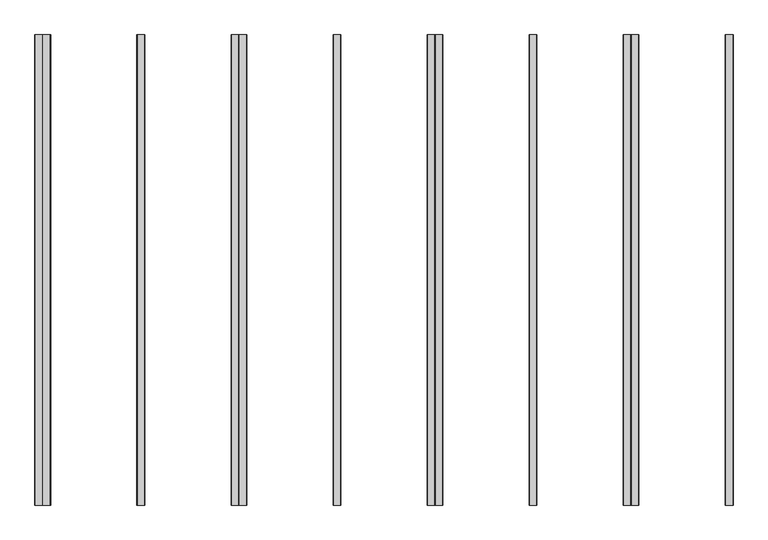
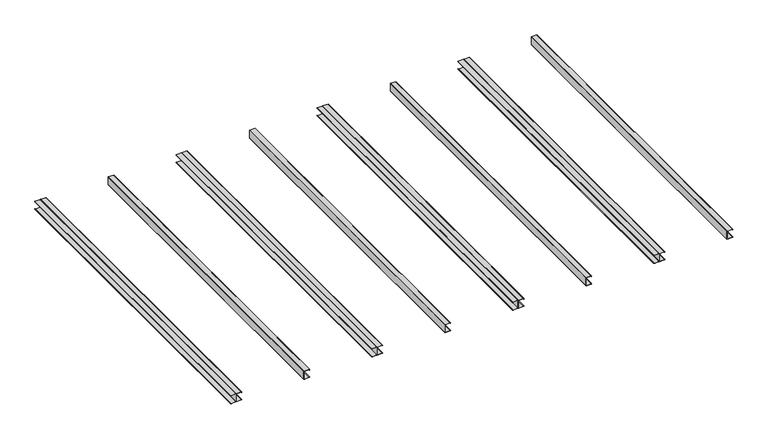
"""IFC4 building model written with IfcOpenShell, lengths in millimetres: proxy geometry, C- 2xCprofile-75 : C- 2xCprofile-75."""

import ifcopenshell
import ifcopenshell.guid

model = None  # the IFC model being written
_history = None  # IfcOwnerHistory: only IFC2X3 demands one
_inside = {}  # id of a spatial element -> (the spatial element, [elements in it])
_under = {}  # id of a project, library or spatial element -> (it, [spatial elements below it])
_declared = {}  # id of a project -> (the project, [libraries it declares])
_typed = {}  # id of a type object -> (the type object, [elements of that type])
_made_of = {}  # id of a material, layer set ... -> (it, [elements and type objects made of it])


def new_model(schema):
    """Start an empty IFC model of exactly this schema.

    Asked for "IFC4X3", IfcOpenShell would pick the latest addendum, in which some entities
    have other attributes; the version numbers below select the first issue.
    IFC2X3 requires an IfcOwnerHistory on every rooted entity: one is made here for all.
    """
    global model, _history
    if schema == "IFC4X3":
        model = ifcopenshell.file(schema_version=(4, 3, 0, 0))
    else:
        model = ifcopenshell.file(schema=schema)
    _inside.clear()
    _under.clear()
    _declared.clear()
    _typed.clear()
    _made_of.clear()
    _history = None
    if model.schema == "IFC2X3":
        org = make("IfcOrganization", Name="unknown")
        user = make(
            "IfcPersonAndOrganization",
            ThePerson=make("IfcPerson", FamilyName="unknown"),
            TheOrganization=org,
        )
        app = make(
            "IfcApplication",
            ApplicationDeveloper=org,
            Version="unknown",
            ApplicationFullName="unknown",
            ApplicationIdentifier="unknown",
        )
        _history = make(
            "IfcOwnerHistory",
            OwningUser=user,
            OwningApplication=app,
            ChangeAction="ADDED",
            CreationDate=0,
        )
    return model


def make(cls, **values):
    """One entity of the class cls with the attributes given. An attribute that is None is left unset."""
    return model.create_entity(
        cls, **{name: value for name, value in values.items() if value is not None}
    )


def rooted(cls, **values):
    """An entity with a GlobalId (a new one), such as an element, a storey or a relation."""
    return make(cls, GlobalId=ifcopenshell.guid.new(), OwnerHistory=_history, **values)


def si_unit(unit_type, name, prefix=None):
    """IfcSIUnit, for example si_unit("LENGTHUNIT", "METRE", prefix="MILLI")."""
    return make("IfcSIUnit", UnitType=unit_type, Prefix=prefix, Name=name)


def assignment(units):
    """IfcUnitAssignment: the units of a project."""
    return None if units is None else make("IfcUnitAssignment", Units=units)


def point(xyz):
    """IfcCartesianPoint."""
    return None if xyz is None else make("IfcCartesianPoint", Coordinates=xyz)


def direction(xyz):
    """IfcDirection."""
    return None if xyz is None else make("IfcDirection", DirectionRatios=xyz)


def frame(location, z_axis=None, x_axis=None):
    """IfcAxis2Placement3D, a coordinate frame: its origin and axes. An axis left out is left unset."""
    return make(
        "IfcAxis2Placement3D",
        Location=point(location),
        Axis=direction(z_axis),
        RefDirection=direction(x_axis),
    )


def frame_2d(location, x_axis=None):
    """IfcAxis2Placement2D, a coordinate frame in the plane: its origin and x axis."""
    return make(
        "IfcAxis2Placement2D", Location=point(location), RefDirection=direction(x_axis)
    )


def origin():
    """The frame at (0, 0, 0) with its axes left unset."""
    return frame((0.0, 0.0, 0.0))


def place(relative_to, where):
    """IfcLocalPlacement: puts the frame where relative to a parent placement (None: the world)."""
    return make(
        "IfcLocalPlacement", PlacementRelTo=relative_to, RelativePlacement=where
    )


def context(
    kind, dimensions, precision=None, world=None, true_north=None, identifier=None
):
    """IfcGeometricRepresentationContext, for example the 3D "Model" context."""
    return make(
        "IfcGeometricRepresentationContext",
        ContextIdentifier=identifier,
        ContextType=kind,
        CoordinateSpaceDimension=dimensions,
        Precision=precision,
        WorldCoordinateSystem=world,
        TrueNorth=true_north,
    )


def project(units=None, contexts=None):
    """IfcProject with its units and contexts."""
    return rooted(
        "IfcProject",
        Name="project",
        RepresentationContexts=contexts,
        UnitsInContext=assignment(units),
    )


def spatial(cls, under=None, at=None, **own):
    """A site, building, storey or space (cls), placed at a placement, below another one or the project."""
    s = rooted(cls, ObjectPlacement=at, **own)
    if under is not None:
        _under.setdefault(under.id(), (under, []))[1].append(s)
    return s


def polyline(points):
    """IfcPolyline through the points."""
    return make("IfcPolyline", Points=[point(p) for p in points])


def circle_curve(where, radius):
    """IfcCircle in the frame where."""
    return make("IfcCircle", Position=where, Radius=radius)


def trimmed(basis, trim1, trim2, sense, master):
    """IfcTrimmedCurve: the piece of a basis curve between two trims."""
    return make(
        "IfcTrimmedCurve",
        BasisCurve=basis,
        Trim1=trim1,
        Trim2=trim2,
        SenseAgreement=sense,
        MasterRepresentation=master,
    )


def segment(curve, same_sense, transition):
    """IfcCompositeCurveSegment."""
    return make(
        "IfcCompositeCurveSegment",
        Transition=transition,
        SameSense=same_sense,
        ParentCurve=curve,
    )


def composite_curve(segments, self_intersect=None):
    """IfcCompositeCurve: segments joined end to end."""
    return make("IfcCompositeCurve", Segments=segments, SelfIntersect=self_intersect)


def outline(outer, holes=None, kind="AREA"):
    """IfcArbitraryClosedProfileDef: a profile drawn as a closed curve; with holes, ...WithVoids."""
    if holes is None:
        return make("IfcArbitraryClosedProfileDef", ProfileType=kind, OuterCurve=outer)
    return make(
        "IfcArbitraryProfileDefWithVoids",
        ProfileType=kind,
        OuterCurve=outer,
        InnerCurves=holes,
    )


def extrude(swept, where, along, depth):
    """IfcExtrudedAreaSolid: the profile swept, set in the frame where, extruded along a direction by depth."""
    return make(
        "IfcExtrudedAreaSolid",
        SweptArea=swept,
        Position=where,
        ExtrudedDirection=direction(along),
        Depth=depth,
    )


def shape(context_of_items, identifier, shape_type, items):
    """IfcShapeRepresentation: the items that make up one representation, for example the "Body"."""
    return make(
        "IfcShapeRepresentation",
        ContextOfItems=context_of_items,
        RepresentationIdentifier=identifier,
        RepresentationType=shape_type,
        Items=items,
    )


def source(mapping_origin, context_of_items, identifier, shape_type, items):
    """IfcRepresentationMap: a shape defined once, which mapped items show again and again."""
    return make(
        "IfcRepresentationMap",
        MappingOrigin=mapping_origin,
        MappedRepresentation=shape(context_of_items, identifier, shape_type, items),
    )


def transform(
    local_origin,
    x_axis=None,
    y_axis=None,
    z_axis=None,
    scale=None,
    scale2=None,
    scale3=None,
    uniform=True,
):
    """IfcCartesianTransformationOperator3D, or its non-uniform kind. x_axis, y_axis, z_axis: its Axis1, 2, 3."""
    if uniform:
        return make(
            "IfcCartesianTransformationOperator3D",
            Axis1=direction(x_axis),
            Axis2=direction(y_axis),
            LocalOrigin=point(local_origin),
            Scale=scale,
            Axis3=direction(z_axis),
        )
    return make(
        "IfcCartesianTransformationOperator3DnonUniform",
        Axis1=direction(x_axis),
        Axis2=direction(y_axis),
        LocalOrigin=point(local_origin),
        Scale=scale,
        Axis3=direction(z_axis),
        Scale2=scale2,
        Scale3=scale3,
    )


def mapped(mapping_source, mapping_target):
    """IfcMappedItem: shows the shape of a source again, moved by a transform."""
    return make(
        "IfcMappedItem", MappingSource=mapping_source, MappingTarget=mapping_target
    )


def made_of(thing, what):
    """Note that an element or type object is made of a material, layer set ...; save() writes the relation."""
    if what is not None:
        _made_of.setdefault(what.id(), (what, []))[1].append(thing)
    return thing


def element(
    cls,
    number,
    at=None,
    inside=None,
    cuts=None,
    type_object=None,
    material=None,
    context=None,
    identifier="Body",
    shape_type=None,
    held_by="IfcProductDefinitionShape",
    body=None,
    shapes=None,
    **own,
):
    """One element of the class cls, such as IfcWall. Its Tag is "e" and its number.

    at: its placement. inside: the storey or other place that contains it. cuts: it is an
    opening in that element (IfcRelVoidsElement). A single representation is given by context,
    identifier, shape_type and body (its items); several are given by shapes. held_by: the class
    of the entity that holds the representations. save() writes the other relations.
    """
    e = rooted(cls, Tag="e%d" % number, ObjectPlacement=at, **own)
    if body is not None:
        shapes = [shape(context, identifier, shape_type, body)]
    if shapes is not None:
        e.Representation = make(held_by, Representations=shapes)
    if inside is not None:
        _inside.setdefault(inside.id(), (inside, []))[1].append(e)
    if cuts is not None:
        rooted(
            "IfcRelVoidsElement", RelatingBuildingElement=cuts, RelatedOpeningElement=e
        )
    if type_object is not None:
        _typed.setdefault(type_object.id(), (type_object, []))[1].append(e)
    return made_of(e, material)


def aggregate(whole, parts):
    """IfcRelAggregates: a whole, such as a stair, and the parts it consists of."""
    return rooted("IfcRelAggregates", RelatingObject=whole, RelatedObjects=parts)


def save(model, path):
    """Write the relations noted so far, then the file.

    IfcRelAggregates (storeys below a building ...), IfcRelContainedInSpatialStructure (elements
    in a storey), IfcRelDefinesByType, IfcRelAssociatesMaterial and IfcRelDeclares: one each for
    every whole, place, type object, material and project.
    """
    for whole, parts in _under.values():
        aggregate(whole, parts)
    for where, things in _inside.values():
        rooted(
            "IfcRelContainedInSpatialStructure",
            RelatedElements=things,
            RelatingStructure=where,
        )
    for kind, things in _typed.values():
        rooted("IfcRelDefinesByType", RelatedObjects=things, RelatingType=kind)
    for what, things in _made_of.values():
        rooted("IfcRelAssociatesMaterial", RelatedObjects=things, RelatingMaterial=what)
    for by, libraries in _declared.values():
        rooted("IfcRelDeclares", RelatingContext=by, RelatedDefinitions=libraries)
    model.write(path)


def generic_models_1c93a5be(model_context):
    return source(origin(), model_context, "Body", "SweptSolid", [
        extrude(outline(composite_curve([segment(polyline([(36.7, 3724.2), (-36.7, 3724.2), (-36.7, 3675.8), (-33.3621458, 3675.8), (-33.3621458, 3676.62673), (-35.0, 3676.62673), (-35.0, 3677.42673), (-33.5995706, 3677.42673)]), True, "CONTINUOUS"), segment(trimmed(circle_curve(frame_2d((-33.5995706, 3676.213365)), 1.213365), [point((-33.5995706, 3677.42673))], [point((-33.5995706, 3675.0))], False, "CARTESIAN"), True, "CONTINUOUS"), segment(polyline([(-33.5995706, 3675.0), (-36.8270817, 3675.0)]), True, "CONTINUOUS"), segment(trimmed(circle_curve(frame_2d((-36.8270817, 3675.6729183)), 0.6729183), [point((-36.8270817, 3675.0))], [point((-37.5, 3675.6729183))], False, "CARTESIAN"), True, "CONTINUOUS"), segment(polyline([(-37.5, 3675.6729183), (-37.5, 3724.2)]), True, "CONTINUOUS"), segment(trimmed(circle_curve(frame_2d((-36.7, 3724.2)), 0.8), [point((-37.5, 3724.2))], [point((-36.7, 3725.0))], False, "CARTESIAN"), True, "CONTINUOUS"), segment(trimmed(circle_curve(frame_2d((-36.7, 3725.8)), 0.8), [point((-36.7, 3725.0))], [point((-37.5, 3725.8))], False, "CARTESIAN"), True, "CONTINUOUS"), segment(polyline([(-37.5, 3725.8), (-37.5, 3774.3270817)]), True, "CONTINUOUS"), segment(trimmed(circle_curve(frame_2d((-36.8270817, 3774.3270817)), 0.6729183), [point((-37.5, 3774.3270817))], [point((-36.8270817, 3775.0))], False, "CARTESIAN"), True, "CONTINUOUS"), segment(polyline([(-36.8270817, 3775.0), (-33.5995706, 3775.0)]), True, "CONTINUOUS"), segment(trimmed(circle_curve(frame_2d((-33.5995706, 3773.786635)), 1.213365), [point((-33.5995706, 3775.0))], [point((-33.5995706, 3772.57327))], False, "CARTESIAN"), True, "CONTINUOUS"), segment(polyline([(-33.5995706, 3772.57327), (-35.0, 3772.57327), (-35.0, 3773.37327), (-33.3621458, 3773.37327), (-33.3621458, 3774.2), (-36.7, 3774.2), (-36.7, 3725.8), (36.7, 3725.8), (36.7, 3774.2), (33.3621458, 3774.2), (33.3621458, 3773.37327), (35.0, 3773.37327), (35.0, 3772.57327), (33.5995706, 3772.57327)]), True, "CONTINUOUS"), segment(trimmed(circle_curve(frame_2d((33.5995706, 3773.786635)), 1.213365), [point((33.5995706, 3772.57327))], [point((33.5995706, 3775.0))], False, "CARTESIAN"), True, "CONTINUOUS"), segment(polyline([(33.5995706, 3775.0), (36.8270817, 3775.0)]), True, "CONTINUOUS"), segment(trimmed(circle_curve(frame_2d((36.8270817, 3774.3270817)), 0.6729183), [point((36.8270817, 3775.0))], [point((37.5, 3774.3270817))], False, "CARTESIAN"), True, "CONTINUOUS"), segment(polyline([(37.5, 3774.3270817), (37.5, 3725.8)]), True, "CONTINUOUS"), segment(trimmed(circle_curve(frame_2d((36.7, 3725.8)), 0.8), [point((37.5, 3725.8))], [point((36.7, 3725.0))], False, "CARTESIAN"), True, "CONTINUOUS"), segment(trimmed(circle_curve(frame_2d((36.7, 3724.2)), 0.8), [point((36.7, 3725.0))], [point((37.5, 3724.2))], False, "CARTESIAN"), True, "CONTINUOUS"), segment(polyline([(37.5, 3724.2), (37.5, 3675.6729183)]), True, "CONTINUOUS"), segment(trimmed(circle_curve(frame_2d((36.8270817, 3675.6729183)), 0.6729183), [point((37.5, 3675.6729183))], [point((36.8270817, 3675.0))], False, "CARTESIAN"), True, "CONTINUOUS"), segment(polyline([(36.8270817, 3675.0), (33.5995706, 3675.0)]), True, "CONTINUOUS"), segment(trimmed(circle_curve(frame_2d((33.5995706, 3676.213365)), 1.213365), [point((33.5995706, 3675.0))], [point((33.5995706, 3677.42673))], False, "CARTESIAN"), True, "CONTINUOUS"), segment(polyline([(33.5995706, 3677.42673), (35.0, 3677.42673), (35.0, 3676.62673), (33.3621458, 3676.62673), (33.3621458, 3675.8), (36.7, 3675.8), (36.7, 3724.2)]), True, "CONTINUOUS")], self_intersect=False)), frame((0.0, 0.0, 0.0), z_axis=(0.0, 1.0, 0.0), x_axis=(0.0, 0.0, 1.0)), (0.0, 0.0, 1.0), 3000.0),
        extrude(outline(composite_curve([segment(polyline([(36.7, 4326.3409373), (36.7, 4374.7409373), (33.3621458, 4374.7409373), (33.3621458, 4373.9142072), (35.0, 4373.9142072), (35.0, 4373.1142072), (33.5995706, 4373.1142072)]), True, "CONTINUOUS"), segment(trimmed(circle_curve(frame_2d((33.5995706, 4374.3275723)), 1.213365), [point((33.5995706, 4373.1142072))], [point((33.5995706, 4375.5409373))], False, "CARTESIAN"), True, "CONTINUOUS"), segment(polyline([(33.5995706, 4375.5409373), (36.8270817, 4375.5409373)]), True, "CONTINUOUS"), segment(trimmed(circle_curve(frame_2d((36.8270817, 4374.868019)), 0.6729183), [point((36.8270817, 4375.5409373))], [point((37.5, 4374.868019))], False, "CARTESIAN"), True, "CONTINUOUS"), segment(polyline([(37.5, 4374.868019), (37.5, 4326.3409373)]), True, "CONTINUOUS"), segment(trimmed(circle_curve(frame_2d((36.7, 4326.3409373)), 0.8), [point((37.5, 4326.3409373))], [point((36.7, 4325.5409373))], False, "CARTESIAN"), True, "CONTINUOUS"), segment(polyline([(36.7, 4325.5409373), (-36.7, 4325.5409373)]), True, "CONTINUOUS"), segment(trimmed(circle_curve(frame_2d((-36.7, 4326.3409373)), 0.8), [point((-36.7, 4325.5409373))], [point((-37.5, 4326.3409373))], False, "CARTESIAN"), True, "CONTINUOUS"), segment(polyline([(-37.5, 4326.3409373), (-37.5, 4374.868019)]), True, "CONTINUOUS"), segment(trimmed(circle_curve(frame_2d((-36.8270817, 4374.868019)), 0.6729183), [point((-37.5, 4374.868019))], [point((-36.8270817, 4375.5409373))], False, "CARTESIAN"), True, "CONTINUOUS"), segment(polyline([(-36.8270817, 4375.5409373), (-33.5995706, 4375.5409373)]), True, "CONTINUOUS"), segment(trimmed(circle_curve(frame_2d((-33.5995706, 4374.3275723)), 1.213365), [point((-33.5995706, 4375.5409373))], [point((-33.5995706, 4373.1142072))], False, "CARTESIAN"), True, "CONTINUOUS"), segment(polyline([(-33.5995706, 4373.1142072), (-35.0, 4373.1142072), (-35.0, 4373.9142072), (-33.3621458, 4373.9142072), (-33.3621458, 4374.7409373), (-36.7, 4374.7409373), (-36.7, 4326.3409373), (36.7, 4326.3409373)]), True, "CONTINUOUS")], self_intersect=False)), frame((0.0, 0.0, 0.0), z_axis=(0.0, 1.0, 0.0), x_axis=(0.0, 0.0, 1.0)), (0.0, 0.0, 1.0), 3000.0),
        extrude(outline(composite_curve([segment(polyline([(36.7, 3076.3409373), (36.7, 3124.7409373), (33.3621458, 3124.7409373), (33.3621458, 3123.9142072), (35.0, 3123.9142072), (35.0, 3123.1142072), (33.5995706, 3123.1142072)]), True, "CONTINUOUS"), segment(trimmed(circle_curve(frame_2d((33.5995706, 3124.3275723)), 1.213365), [point((33.5995706, 3123.1142072))], [point((33.5995706, 3125.5409373))], False, "CARTESIAN"), True, "CONTINUOUS"), segment(polyline([(33.5995706, 3125.5409373), (36.8270817, 3125.5409373)]), True, "CONTINUOUS"), segment(trimmed(circle_curve(frame_2d((36.8270817, 3124.868019)), 0.6729183), [point((36.8270817, 3125.5409373))], [point((37.5, 3124.868019))], False, "CARTESIAN"), True, "CONTINUOUS"), segment(polyline([(37.5, 3124.868019), (37.5, 3076.3409373)]), True, "CONTINUOUS"), segment(trimmed(circle_curve(frame_2d((36.7, 3076.3409373)), 0.8), [point((37.5, 3076.3409373))], [point((36.7, 3075.5409373))], False, "CARTESIAN"), True, "CONTINUOUS"), segment(polyline([(36.7, 3075.5409373), (-36.7, 3075.5409373)]), True, "CONTINUOUS"), segment(trimmed(circle_curve(frame_2d((-36.7, 3076.3409373)), 0.8), [point((-36.7, 3075.5409373))], [point((-37.5, 3076.3409373))], False, "CARTESIAN"), True, "CONTINUOUS"), segment(polyline([(-37.5, 3076.3409373), (-37.5, 3124.868019)]), True, "CONTINUOUS"), segment(trimmed(circle_curve(frame_2d((-36.8270817, 3124.868019)), 0.6729183), [point((-37.5, 3124.868019))], [point((-36.8270817, 3125.5409373))], False, "CARTESIAN"), True, "CONTINUOUS"), segment(polyline([(-36.8270817, 3125.5409373), (-33.5995706, 3125.5409373)]), True, "CONTINUOUS"), segment(trimmed(circle_curve(frame_2d((-33.5995706, 3124.3275723)), 1.213365), [point((-33.5995706, 3125.5409373))], [point((-33.5995706, 3123.1142072))], False, "CARTESIAN"), True, "CONTINUOUS"), segment(polyline([(-33.5995706, 3123.1142072), (-35.0, 3123.1142072), (-35.0, 3123.9142072), (-33.3621458, 3123.9142072), (-33.3621458, 3124.7409373), (-36.7, 3124.7409373), (-36.7, 3076.3409373), (36.7, 3076.3409373)]), True, "CONTINUOUS")], self_intersect=False)), frame((0.0, 0.0, 0.0), z_axis=(0.0, 1.0, 0.0), x_axis=(0.0, 0.0, 1.0)), (0.0, 0.0, 1.0), 3000.0),
        extrude(outline(composite_curve([segment(polyline([(36.7, 1826.3409373), (36.7, 1874.7409373), (33.3621458, 1874.7409373), (33.3621458, 1873.9142072), (35.0, 1873.9142072), (35.0, 1873.1142072), (33.5995706, 1873.1142072)]), True, "CONTINUOUS"), segment(trimmed(circle_curve(frame_2d((33.5995706, 1874.3275723)), 1.213365), [point((33.5995706, 1873.1142072))], [point((33.5995706, 1875.5409373))], False, "CARTESIAN"), True, "CONTINUOUS"), segment(polyline([(33.5995706, 1875.5409373), (36.8270817, 1875.5409373)]), True, "CONTINUOUS"), segment(trimmed(circle_curve(frame_2d((36.8270817, 1874.868019)), 0.6729183), [point((36.8270817, 1875.5409373))], [point((37.5, 1874.868019))], False, "CARTESIAN"), True, "CONTINUOUS"), segment(polyline([(37.5, 1874.868019), (37.5, 1826.3409373)]), True, "CONTINUOUS"), segment(trimmed(circle_curve(frame_2d((36.7, 1826.3409373)), 0.8), [point((37.5, 1826.3409373))], [point((36.7, 1825.5409373))], False, "CARTESIAN"), True, "CONTINUOUS"), segment(polyline([(36.7, 1825.5409373), (-36.7, 1825.5409373)]), True, "CONTINUOUS"), segment(trimmed(circle_curve(frame_2d((-36.7, 1826.3409373)), 0.8), [point((-36.7, 1825.5409373))], [point((-37.5, 1826.3409373))], False, "CARTESIAN"), True, "CONTINUOUS"), segment(polyline([(-37.5, 1826.3409373), (-37.5, 1874.868019)]), True, "CONTINUOUS"), segment(trimmed(circle_curve(frame_2d((-36.8270817, 1874.868019)), 0.6729183), [point((-37.5, 1874.868019))], [point((-36.8270817, 1875.5409373))], False, "CARTESIAN"), True, "CONTINUOUS"), segment(polyline([(-36.8270817, 1875.5409373), (-33.5995706, 1875.5409373)]), True, "CONTINUOUS"), segment(trimmed(circle_curve(frame_2d((-33.5995706, 1874.3275723)), 1.213365), [point((-33.5995706, 1875.5409373))], [point((-33.5995706, 1873.1142072))], False, "CARTESIAN"), True, "CONTINUOUS"), segment(polyline([(-33.5995706, 1873.1142072), (-35.0, 1873.1142072), (-35.0, 1873.9142072), (-33.3621458, 1873.9142072), (-33.3621458, 1874.7409373), (-36.7, 1874.7409373), (-36.7, 1826.3409373), (36.7, 1826.3409373)]), True, "CONTINUOUS")], self_intersect=False)), frame((0.0, 0.0, 0.0), z_axis=(0.0, 1.0, 0.0), x_axis=(0.0, 0.0, 1.0)), (0.0, 0.0, 1.0), 3000.0),
        extrude(outline(composite_curve([segment(polyline([(36.7, 576.3409373), (36.7, 624.7409373), (33.3621458, 624.7409373), (33.3621458, 623.9142072), (35.0, 623.9142072), (35.0, 623.1142072), (33.5995706, 623.1142072)]), True, "CONTINUOUS"), segment(trimmed(circle_curve(frame_2d((33.5995706, 624.3275723)), 1.213365), [point((33.5995706, 623.1142072))], [point((33.5995706, 625.5409373))], False, "CARTESIAN"), True, "CONTINUOUS"), segment(polyline([(33.5995706, 625.5409373), (36.8270817, 625.5409373)]), True, "CONTINUOUS"), segment(trimmed(circle_curve(frame_2d((36.8270817, 624.868019)), 0.6729183), [point((36.8270817, 625.5409373))], [point((37.5, 624.868019))], False, "CARTESIAN"), True, "CONTINUOUS"), segment(polyline([(37.5, 624.868019), (37.5, 576.3409373)]), True, "CONTINUOUS"), segment(trimmed(circle_curve(frame_2d((36.7, 576.3409373)), 0.8), [point((37.5, 576.3409373))], [point((36.7, 575.5409373))], False, "CARTESIAN"), True, "CONTINUOUS"), segment(polyline([(36.7, 575.5409373), (-36.7, 575.5409373)]), True, "CONTINUOUS"), segment(trimmed(circle_curve(frame_2d((-36.7, 576.3409373)), 0.8), [point((-36.7, 575.5409373))], [point((-37.5, 576.3409373))], False, "CARTESIAN"), True, "CONTINUOUS"), segment(polyline([(-37.5, 576.3409373), (-37.5, 624.868019)]), True, "CONTINUOUS"), segment(trimmed(circle_curve(frame_2d((-36.8270817, 624.868019)), 0.6729183), [point((-37.5, 624.868019))], [point((-36.8270817, 625.5409373))], False, "CARTESIAN"), True, "CONTINUOUS"), segment(polyline([(-36.8270817, 625.5409373), (-33.5995706, 625.5409373)]), True, "CONTINUOUS"), segment(trimmed(circle_curve(frame_2d((-33.5995706, 624.3275723)), 1.213365), [point((-33.5995706, 625.5409373))], [point((-33.5995706, 623.1142072))], False, "CARTESIAN"), True, "CONTINUOUS"), segment(polyline([(-33.5995706, 623.1142072), (-35.0, 623.1142072), (-35.0, 623.9142072), (-33.3621458, 623.9142072), (-33.3621458, 624.7409373), (-36.7, 624.7409373), (-36.7, 576.3409373), (36.7, 576.3409373)]), True, "CONTINUOUS")], self_intersect=False)), frame((0.0, 0.0, 0.0), z_axis=(0.0, 1.0, 0.0), x_axis=(0.0, 0.0, 1.0)), (0.0, 0.0, 1.0), 3000.0),
        extrude(outline(composite_curve([segment(polyline([(36.7, 2474.2), (-36.7, 2474.2), (-36.7, 2425.8), (-33.3621458, 2425.8), (-33.3621458, 2426.62673), (-35.0, 2426.62673), (-35.0, 2427.42673), (-33.5995706, 2427.42673)]), True, "CONTINUOUS"), segment(trimmed(circle_curve(frame_2d((-33.5995706, 2426.213365)), 1.213365), [point((-33.5995706, 2427.42673))], [point((-33.5995706, 2425.0))], False, "CARTESIAN"), True, "CONTINUOUS"), segment(polyline([(-33.5995706, 2425.0), (-36.8270817, 2425.0)]), True, "CONTINUOUS"), segment(trimmed(circle_curve(frame_2d((-36.8270817, 2425.6729183)), 0.6729183), [point((-36.8270817, 2425.0))], [point((-37.5, 2425.6729183))], False, "CARTESIAN"), True, "CONTINUOUS"), segment(polyline([(-37.5, 2425.6729183), (-37.5, 2474.2)]), True, "CONTINUOUS"), segment(trimmed(circle_curve(frame_2d((-36.7, 2474.2)), 0.8), [point((-37.5, 2474.2))], [point((-36.7, 2475.0))], False, "CARTESIAN"), True, "CONTINUOUS"), segment(trimmed(circle_curve(frame_2d((-36.7, 2475.8)), 0.8), [point((-36.7, 2475.0))], [point((-37.5, 2475.8))], False, "CARTESIAN"), True, "CONTINUOUS"), segment(polyline([(-37.5, 2475.8), (-37.5, 2524.3270817)]), True, "CONTINUOUS"), segment(trimmed(circle_curve(frame_2d((-36.8270817, 2524.3270817)), 0.6729183), [point((-37.5, 2524.3270817))], [point((-36.8270817, 2525.0))], False, "CARTESIAN"), True, "CONTINUOUS"), segment(polyline([(-36.8270817, 2525.0), (-33.5995706, 2525.0)]), True, "CONTINUOUS"), segment(trimmed(circle_curve(frame_2d((-33.5995706, 2523.786635)), 1.213365), [point((-33.5995706, 2525.0))], [point((-33.5995706, 2522.57327))], False, "CARTESIAN"), True, "CONTINUOUS"), segment(polyline([(-33.5995706, 2522.57327), (-35.0, 2522.57327), (-35.0, 2523.37327), (-33.3621458, 2523.37327), (-33.3621458, 2524.2), (-36.7, 2524.2), (-36.7, 2475.8), (36.7, 2475.8), (36.7, 2524.2), (33.3621458, 2524.2), (33.3621458, 2523.37327), (35.0, 2523.37327), (35.0, 2522.57327), (33.5995706, 2522.57327)]), True, "CONTINUOUS"), segment(trimmed(circle_curve(frame_2d((33.5995706, 2523.786635)), 1.213365), [point((33.5995706, 2522.57327))], [point((33.5995706, 2525.0))], False, "CARTESIAN"), True, "CONTINUOUS"), segment(polyline([(33.5995706, 2525.0), (36.8270817, 2525.0)]), True, "CONTINUOUS"), segment(trimmed(circle_curve(frame_2d((36.8270817, 2524.3270817)), 0.6729183), [point((36.8270817, 2525.0))], [point((37.5, 2524.3270817))], False, "CARTESIAN"), True, "CONTINUOUS"), segment(polyline([(37.5, 2524.3270817), (37.5, 2475.8)]), True, "CONTINUOUS"), segment(trimmed(circle_curve(frame_2d((36.7, 2475.8)), 0.8), [point((37.5, 2475.8))], [point((36.7, 2475.0))], False, "CARTESIAN"), True, "CONTINUOUS"), segment(trimmed(circle_curve(frame_2d((36.7, 2474.2)), 0.8), [point((36.7, 2475.0))], [point((37.5, 2474.2))], False, "CARTESIAN"), True, "CONTINUOUS"), segment(polyline([(37.5, 2474.2), (37.5, 2425.6729183)]), True, "CONTINUOUS"), segment(trimmed(circle_curve(frame_2d((36.8270817, 2425.6729183)), 0.6729183), [point((37.5, 2425.6729183))], [point((36.8270817, 2425.0))], False, "CARTESIAN"), True, "CONTINUOUS"), segment(polyline([(36.8270817, 2425.0), (33.5995706, 2425.0)]), True, "CONTINUOUS"), segment(trimmed(circle_curve(frame_2d((33.5995706, 2426.213365)), 1.213365), [point((33.5995706, 2425.0))], [point((33.5995706, 2427.42673))], False, "CARTESIAN"), True, "CONTINUOUS"), segment(polyline([(33.5995706, 2427.42673), (35.0, 2427.42673), (35.0, 2426.62673), (33.3621458, 2426.62673), (33.3621458, 2425.8), (36.7, 2425.8), (36.7, 2474.2)]), True, "CONTINUOUS")], self_intersect=False)), frame((0.0, 0.0, 0.0), z_axis=(0.0, 1.0, 0.0), x_axis=(0.0, 0.0, 1.0)), (0.0, 0.0, 1.0), 3000.0),
        extrude(outline(composite_curve([segment(polyline([(36.7, 1224.2), (-36.7, 1224.2), (-36.7, 1175.8), (-33.3621458, 1175.8), (-33.3621458, 1176.62673), (-35.0, 1176.62673), (-35.0, 1177.42673), (-33.5995706, 1177.42673)]), True, "CONTINUOUS"), segment(trimmed(circle_curve(frame_2d((-33.5995706, 1176.213365)), 1.213365), [point((-33.5995706, 1177.42673))], [point((-33.5995706, 1175.0))], False, "CARTESIAN"), True, "CONTINUOUS"), segment(polyline([(-33.5995706, 1175.0), (-36.8270817, 1175.0)]), True, "CONTINUOUS"), segment(trimmed(circle_curve(frame_2d((-36.8270817, 1175.6729183)), 0.6729183), [point((-36.8270817, 1175.0))], [point((-37.5, 1175.6729183))], False, "CARTESIAN"), True, "CONTINUOUS"), segment(polyline([(-37.5, 1175.6729183), (-37.5, 1224.2)]), True, "CONTINUOUS"), segment(trimmed(circle_curve(frame_2d((-36.7, 1224.2)), 0.8), [point((-37.5, 1224.2))], [point((-36.7, 1225.0))], False, "CARTESIAN"), True, "CONTINUOUS"), segment(trimmed(circle_curve(frame_2d((-36.7, 1225.8)), 0.8), [point((-36.7, 1225.0))], [point((-37.5, 1225.8))], False, "CARTESIAN"), True, "CONTINUOUS"), segment(polyline([(-37.5, 1225.8), (-37.5, 1274.3270817)]), True, "CONTINUOUS"), segment(trimmed(circle_curve(frame_2d((-36.8270817, 1274.3270817)), 0.6729183), [point((-37.5, 1274.3270817))], [point((-36.8270817, 1275.0))], False, "CARTESIAN"), True, "CONTINUOUS"), segment(polyline([(-36.8270817, 1275.0), (-33.5995706, 1275.0)]), True, "CONTINUOUS"), segment(trimmed(circle_curve(frame_2d((-33.5995706, 1273.786635)), 1.213365), [point((-33.5995706, 1275.0))], [point((-33.5995706, 1272.57327))], False, "CARTESIAN"), True, "CONTINUOUS"), segment(polyline([(-33.5995706, 1272.57327), (-35.0, 1272.57327), (-35.0, 1273.37327), (-33.3621458, 1273.37327), (-33.3621458, 1274.2), (-36.7, 1274.2), (-36.7, 1225.8), (36.7, 1225.8), (36.7, 1274.2), (33.3621458, 1274.2), (33.3621458, 1273.37327), (35.0, 1273.37327), (35.0, 1272.57327), (33.5995706, 1272.57327)]), True, "CONTINUOUS"), segment(trimmed(circle_curve(frame_2d((33.5995706, 1273.786635)), 1.213365), [point((33.5995706, 1272.57327))], [point((33.5995706, 1275.0))], False, "CARTESIAN"), True, "CONTINUOUS"), segment(polyline([(33.5995706, 1275.0), (36.8270817, 1275.0)]), True, "CONTINUOUS"), segment(trimmed(circle_curve(frame_2d((36.8270817, 1274.3270817)), 0.6729183), [point((36.8270817, 1275.0))], [point((37.5, 1274.3270817))], False, "CARTESIAN"), True, "CONTINUOUS"), segment(polyline([(37.5, 1274.3270817), (37.5, 1225.8)]), True, "CONTINUOUS"), segment(trimmed(circle_curve(frame_2d((36.7, 1225.8)), 0.8), [point((37.5, 1225.8))], [point((36.7, 1225.0))], False, "CARTESIAN"), True, "CONTINUOUS"), segment(trimmed(circle_curve(frame_2d((36.7, 1224.2)), 0.8), [point((36.7, 1225.0))], [point((37.5, 1224.2))], False, "CARTESIAN"), True, "CONTINUOUS"), segment(polyline([(37.5, 1224.2), (37.5, 1175.6729183)]), True, "CONTINUOUS"), segment(trimmed(circle_curve(frame_2d((36.8270817, 1175.6729183)), 0.6729183), [point((37.5, 1175.6729183))], [point((36.8270817, 1175.0))], False, "CARTESIAN"), True, "CONTINUOUS"), segment(polyline([(36.8270817, 1175.0), (33.5995706, 1175.0)]), True, "CONTINUOUS"), segment(trimmed(circle_curve(frame_2d((33.5995706, 1176.213365)), 1.213365), [point((33.5995706, 1175.0))], [point((33.5995706, 1177.42673))], False, "CARTESIAN"), True, "CONTINUOUS"), segment(polyline([(33.5995706, 1177.42673), (35.0, 1177.42673), (35.0, 1176.62673), (33.3621458, 1176.62673), (33.3621458, 1175.8), (36.7, 1175.8), (36.7, 1224.2)]), True, "CONTINUOUS")], self_intersect=False)), frame((0.0, 0.0, 0.0), z_axis=(0.0, 1.0, 0.0), x_axis=(0.0, 0.0, 1.0)), (0.0, 0.0, 1.0), 3000.0),
        extrude(outline(composite_curve([segment(polyline([(36.7, -25.8), (-36.7, -25.8), (-36.7, -74.2), (-33.3621458, -74.2), (-33.3621458, -73.37327), (-35.0, -73.37327), (-35.0, -72.57327), (-33.5995706, -72.57327)]), True, "CONTINUOUS"), segment(trimmed(circle_curve(frame_2d((-33.5995706, -73.786635)), 1.213365), [point((-33.5995706, -72.57327))], [point((-33.5995706, -75.0))], False, "CARTESIAN"), True, "CONTINUOUS"), segment(polyline([(-33.5995706, -75.0), (-36.8270817, -75.0)]), True, "CONTINUOUS"), segment(trimmed(circle_curve(frame_2d((-36.8270817, -74.3270817)), 0.6729183), [point((-36.8270817, -75.0))], [point((-37.5, -74.3270817))], False, "CARTESIAN"), True, "CONTINUOUS"), segment(polyline([(-37.5, -74.3270817), (-37.5, -25.8)]), True, "CONTINUOUS"), segment(trimmed(circle_curve(frame_2d((-36.7, -25.8)), 0.8), [point((-37.5, -25.8))], [point((-36.7, -25.0))], False, "CARTESIAN"), True, "CONTINUOUS"), segment(trimmed(circle_curve(frame_2d((-36.7, -24.2)), 0.8), [point((-36.7, -25.0))], [point((-37.5, -24.2))], False, "CARTESIAN"), True, "CONTINUOUS"), segment(polyline([(-37.5, -24.2), (-37.5, 24.3270817)]), True, "CONTINUOUS"), segment(trimmed(circle_curve(frame_2d((-36.8270817, 24.3270817)), 0.6729183), [point((-37.5, 24.3270817))], [point((-36.8270817, 25.0))], False, "CARTESIAN"), True, "CONTINUOUS"), segment(polyline([(-36.8270817, 25.0), (-33.5995706, 25.0)]), True, "CONTINUOUS"), segment(trimmed(circle_curve(frame_2d((-33.5995706, 23.786635)), 1.213365), [point((-33.5995706, 25.0))], [point((-33.5995706, 22.57327))], False, "CARTESIAN"), True, "CONTINUOUS"), segment(polyline([(-33.5995706, 22.57327), (-35.0, 22.57327), (-35.0, 23.37327), (-33.3621458, 23.37327), (-33.3621458, 24.2), (-36.7, 24.2), (-36.7, -24.2), (36.7, -24.2), (36.7, 24.2), (33.3621458, 24.2), (33.3621458, 23.37327), (35.0, 23.37327), (35.0, 22.57327), (33.5995706, 22.57327)]), True, "CONTINUOUS"), segment(trimmed(circle_curve(frame_2d((33.5995706, 23.786635)), 1.213365), [point((33.5995706, 22.57327))], [point((33.5995706, 25.0))], False, "CARTESIAN"), True, "CONTINUOUS"), segment(polyline([(33.5995706, 25.0), (36.8270817, 25.0)]), True, "CONTINUOUS"), segment(trimmed(circle_curve(frame_2d((36.8270817, 24.3270817)), 0.6729183), [point((36.8270817, 25.0))], [point((37.5, 24.3270817))], False, "CARTESIAN"), True, "CONTINUOUS"), segment(polyline([(37.5, 24.3270817), (37.5, -24.2)]), True, "CONTINUOUS"), segment(trimmed(circle_curve(frame_2d((36.7, -24.2)), 0.8), [point((37.5, -24.2))], [point((36.7, -25.0))], False, "CARTESIAN"), True, "CONTINUOUS"), segment(trimmed(circle_curve(frame_2d((36.7, -25.8)), 0.8), [point((36.7, -25.0))], [point((37.5, -25.8))], False, "CARTESIAN"), True, "CONTINUOUS"), segment(polyline([(37.5, -25.8), (37.5, -74.3270817)]), True, "CONTINUOUS"), segment(trimmed(circle_curve(frame_2d((36.8270817, -74.3270817)), 0.6729183), [point((37.5, -74.3270817))], [point((36.8270817, -75.0))], False, "CARTESIAN"), True, "CONTINUOUS"), segment(polyline([(36.8270817, -75.0), (33.5995706, -75.0)]), True, "CONTINUOUS"), segment(trimmed(circle_curve(frame_2d((33.5995706, -73.786635)), 1.213365), [point((33.5995706, -75.0))], [point((33.5995706, -72.57327))], False, "CARTESIAN"), True, "CONTINUOUS"), segment(polyline([(33.5995706, -72.57327), (35.0, -72.57327), (35.0, -73.37327), (33.3621458, -73.37327), (33.3621458, -74.2), (36.7, -74.2), (36.7, -25.8)]), True, "CONTINUOUS")], self_intersect=False)), frame((0.0, 0.0, 0.0), z_axis=(0.0, 1.0, 0.0), x_axis=(0.0, 0.0, 1.0)), (0.0, 0.0, 1.0), 3000.0),
    ])


if __name__ == "__main__":
    model = new_model("IFC4")
    model_context = context("Model", 3, world=origin())
    ifc_project = project(units=[si_unit("LENGTHUNIT", "METRE", prefix="MILLI")], contexts=[model_context])
    site = spatial("IfcSite", under=ifc_project)
    building = spatial("IfcBuilding", under=site)
    placement = place(None, origin())
    generic_models_shape = generic_models_1c93a5be(model_context)
    element("IfcBuildingElementProxy", 1, Name="C- 2xCprofile-75 : C- 2xCprofile-75", ObjectType="C- 2xCprofile-75 : C- 2xCprofile-75", at=placement, inside=building, context=model_context, shape_type="MappedRepresentation", body=[
        mapped(generic_models_shape, transform((0.0, 0.0, 0.0), x_axis=(1.0, 0.0, 0.0), y_axis=(0.0, 1.0, 0.0), z_axis=(0.0, 0.0, 1.0))),
    ])
    save(model, "model.ifc")
